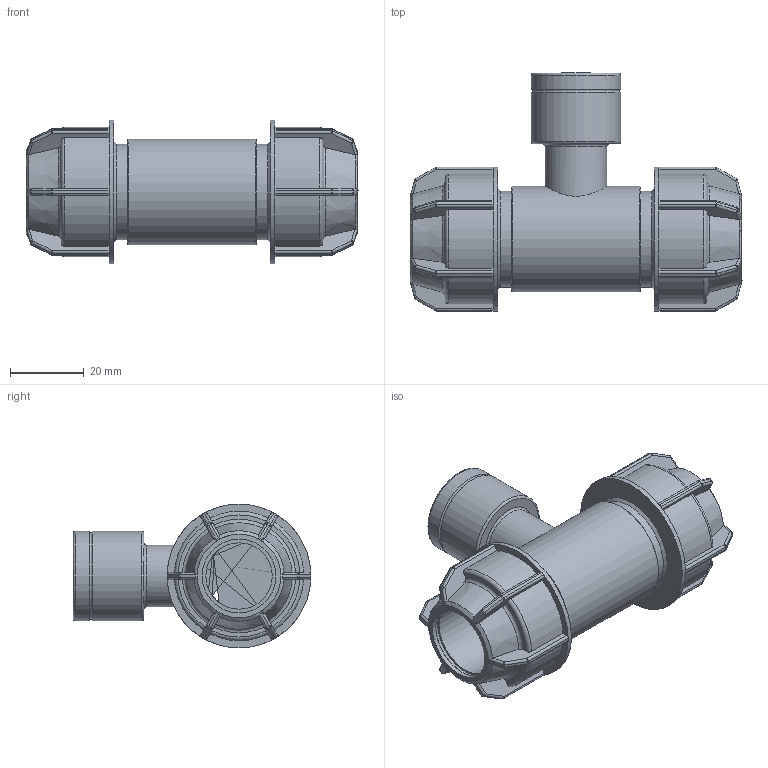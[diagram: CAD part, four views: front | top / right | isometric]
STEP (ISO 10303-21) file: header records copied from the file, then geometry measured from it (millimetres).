
FILE_DESCRIPTION(/* description */ ('PLASSON IRRIFIT TEE FEMALE ADAPTOR 20-1/2"-20'),/* implementation_level */ '2;1');
FILE_NAME(/* name */ 'C:\Dropbox\KIMPROJECTS-Inventor\99-16-3568-Processing\Silver+MF ISRAEL\041407\041407020005.ipt.stp',/* time_stamp */ '2018-04-09T12:59:50+03:00',/* author */ ('KIM'),/* organization */ (''),/* preprocessor_version */ 'ST-DEVELOPER v15.6',/* originating_system */ 'Autodesk Inventor 2015',/* authorisation */ '');
FILE_SCHEMA (('AUTOMOTIVE_DESIGN { 1 0 10303 214 3 1 1 }'));
Length unit declared in the file: millimetre
Products named in the file (1): 041407020005
Bounding box: 90 x 64.5 x 39 mm (x, y, z)
Volume: 45257.2 mm3; surface area: 22404.2 mm2
Topology: 1 solids, 1 shells, 420 faces, 1008 edges, 578 vertices
Faces by surface type: plane 199, cylinder 123, sphere 48, torus 32, cone 18
Full cylindrical faces by diameter (mm): 13.042 x1, 16.768 x1, 18 x1, 18.631 x1, 20 x4, 24.22 x2, 26 x2, 28.6 x1, 39 x2
Entity records: 12132 total; most frequent: CARTESIAN_POINT 3169, DIRECTION 1888, ORIENTED_EDGE 1830, EDGE_CURVE 915, AXIS2_PLACEMENT_3D 764, VERTEX_POINT 543, EDGE_LOOP 458, FACE_OUTER_BOUND 414
